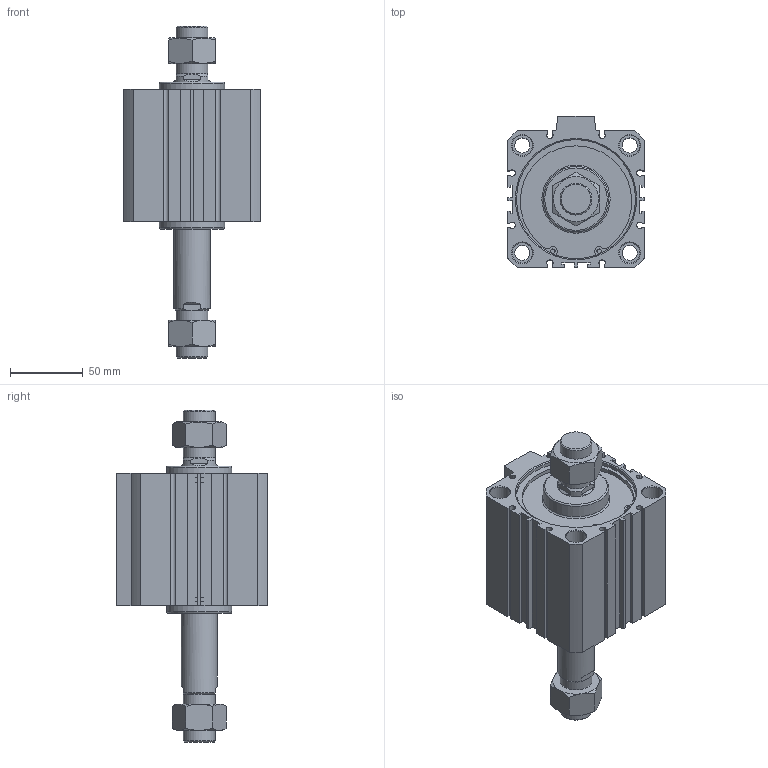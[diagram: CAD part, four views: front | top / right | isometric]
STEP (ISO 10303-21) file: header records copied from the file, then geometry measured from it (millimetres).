
FILE_DESCRIPTION((''),'2;1');
FILE_NAME('I:\3D電子目錄\氣缸\JDD\JDD-B\JDD80-B\JDD80x50-B.stp','2007-02-13T16:50:02',('662F206'),(''),'Autodesk Inventor 10','Autodesk Inventor 10','');
FILE_SCHEMA(('AUTOMOTIVE_DESIGN { 1 0 10303 214 1 1 1 1 }'));
Length unit declared in the file: millimetre
Products named in the file (3): JDD80-B; R 形環 82
Assembly tree (3 placements, depth 2):
  JDD80-B
    JDD80-B
    R 形環 82  x2
Bounding box: 94 x 104 x 228.7 mm (x, y, z)
Volume: 804926.3 mm3; surface area: 105874.5 mm2
Topology: 3 solids, 3 shells, 226 faces, 548 edges, 354 vertices
Faces by surface type: plane 130, cylinder 56, cone 36, bspline 2, torus 2
Full cylindrical faces by diameter (mm): 3.1 x4, 3.5 x2, 10.4 x4, 14 x8, 22 x4, 25 x2, 45 x2, 82 x4, 85.5 x2
Entity records: 6033 total; most frequent: CARTESIAN_POINT 1188, DIRECTION 994, ORIENTED_EDGE 916, EDGE_CURVE 458, AXIS2_PLACEMENT_3D 366, VERTEX_POINT 326, EDGE_LOOP 304, VECTOR 262
